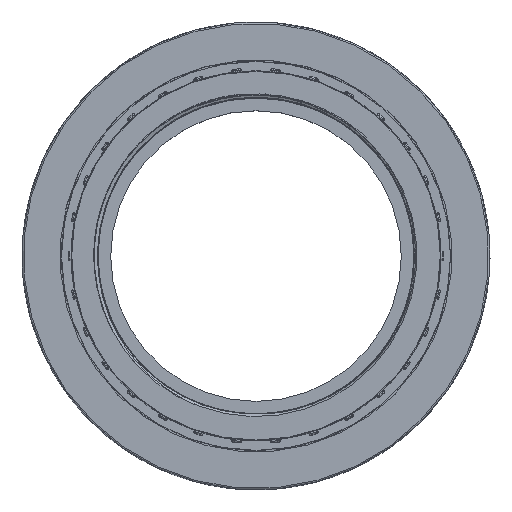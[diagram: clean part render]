
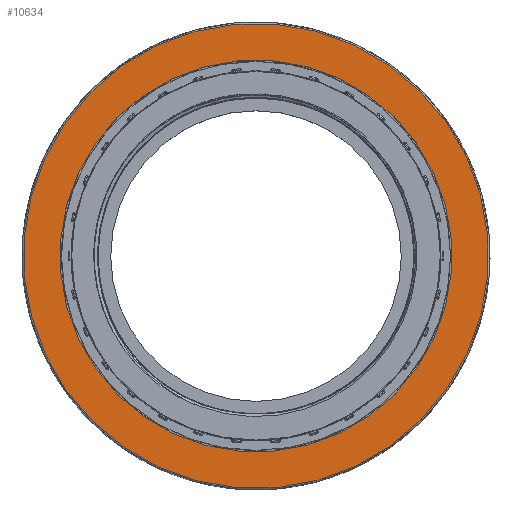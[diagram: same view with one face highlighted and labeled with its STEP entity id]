
A CAD part, top view. The second image highlights one B-rep face of the part: STEP entity #10634.
In plain terms, the highlighted planar face has unit normal (0, 0, 1).
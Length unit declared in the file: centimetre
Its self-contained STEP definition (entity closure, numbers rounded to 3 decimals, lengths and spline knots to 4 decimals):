
#1961=PLANE('',#11531);
#2078=FACE_BOUND('',#3048,.T.);
#2448=FACE_OUTER_BOUND('',#3047,.T.);
#3047=EDGE_LOOP('',(#8226));
#3048=EDGE_LOOP('',(#8227));
#3656=CIRCLE('',#11529,8.1);
#3658=CIRCLE('',#11532,6.825);
#4453=VERTEX_POINT('',#30180);
#4455=VERTEX_POINT('',#30185);
#5773=EDGE_CURVE('',#4453,#4453,#3656,.T.);
#5775=EDGE_CURVE('',#4455,#4455,#3658,.T.);
#8226=ORIENTED_EDGE('',*,*,#5773,.F.);
#8227=ORIENTED_EDGE('',*,*,#5775,.T.);
#10634=ADVANCED_FACE('',(#2448,#2078),#1961,.T.);
#11529=AXIS2_PLACEMENT_3D('',#30181,#13742,#13743);
#11531=AXIS2_PLACEMENT_3D('',#30184,#13746,#13747);
#11532=AXIS2_PLACEMENT_3D('',#30186,#13748,#13749);
#13742=DIRECTION('center_axis',(0.,0.,
-1.));
#13743=DIRECTION('ref_axis',(0.419,0.908,0.));
#13746=DIRECTION('center_axis',(0.,0.,
1.));
#13747=DIRECTION('ref_axis',(0.908,-0.419,0.));
#13748=DIRECTION('center_axis',(0.,0.,
-1.));
#13749=DIRECTION('ref_axis',(0.419,0.908,0.));
#30180=CARTESIAN_POINT('',(-3.3969,-7.3533,3.55));
#30181=CARTESIAN_POINT('Origin',(0.,0.,
3.55));
#30184=CARTESIAN_POINT('Origin',(-3.4179,-7.3987,3.55));
#30185=CARTESIAN_POINT('',(-2.8622,-6.1958,3.55));
#30186=CARTESIAN_POINT('Origin',(0.,0.,
3.55));
